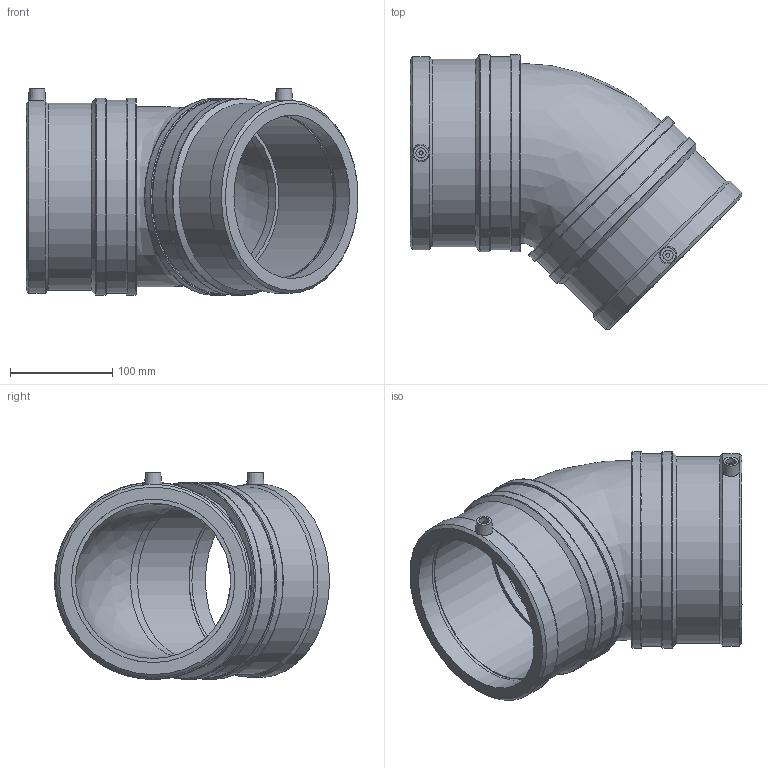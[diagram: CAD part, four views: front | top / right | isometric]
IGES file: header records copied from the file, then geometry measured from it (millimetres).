
Global section: file name: 470604160.ipt; native system: Autodesk Inventor 2015; preprocessor: unknown; author: KIM; date: 20171106.093448; units: millimetre
Bounding box: 325 x 269.12 x 202.5 mm (x, y, z)
Volume: 2177326.7 mm3; surface area: 359623.8 mm2
Topology: 1 solids, 1 shells, 60 faces, 138 edges, 94 vertices
Faces by surface type: revolution 20, plane 18, cylinder 12, cone 10
Full cylindrical faces by diameter (mm): 4 x2, 183.466 x2, 189.14 x2, 193 x4
